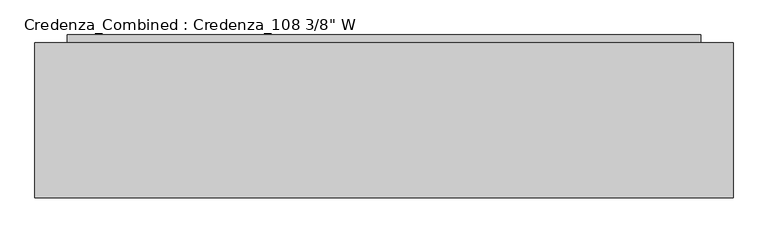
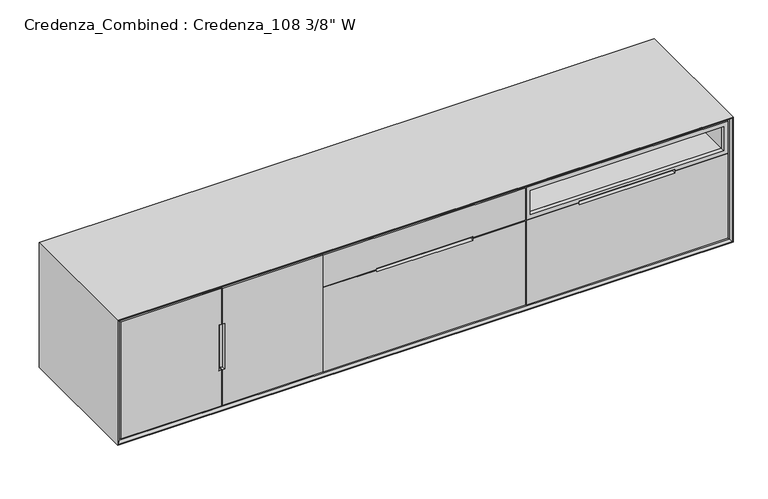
"""IFC4 building model written with IfcOpenShell, lengths in millimetres: furniture geometry."""

from ifc_helpers import new_model, si_unit, frame, origin, origin_with_axes, place, context, project, spatial, polyline, outline, extrude, faceted_brep, source, transform, mapped, element, save


def furniture_aad45bf9(model_context):
    return source(origin(), model_context, "Body", "SolidModel", [
        extrude(outline(polyline([(2717.8, 609.6), (2717.8, 28.575), (1849.4375, 28.575), (1849.4375, 609.6), (2717.8, 609.6)]), holes=[polyline([(1862.1375, 596.9), (1862.1375, 41.275), (2703.5125, 41.275), (2703.5125, 596.9), (1862.1375, 596.9)])]), frame((0.0, 0.0, 118.26875), z_axis=(0.0, 0.0, 1.0), x_axis=(1.0, 0.0, 0.0)), (0.0, 0.0, 1.0), 360.3625),
        extrude(outline(polyline([(642.14375, 2717.8), (642.14375, 1849.4375), (524.66875, 1849.4375), (524.66875, 2717.8), (642.14375, 2717.8)]), holes=[polyline([(640.55625, 2716.2125), (526.25625, 2716.2125), (526.25625, 1851.025), (640.55625, 1851.025), (640.55625, 2716.2125)])]), frame((0.0, 28.575, 0.0), z_axis=(0.0, 1.0, 0.0), x_axis=(0.0, 0.0, 1.0)), (0.0, 0.0, 1.0), 581.025),
        extrude(outline(polyline([(504.03125, 1831.975), (105.56875, 1831.975), (105.56875, 2735.2625), (504.03125, 2735.2625), (504.03125, 2499.51875), (494.7030946, 2499.51875), (494.7030946, 2067.71875), (504.03125, 2067.71875), (504.03125, 1831.975)])), frame((0.0, 9.525, 0.0), z_axis=(0.0, 1.0, 0.0), x_axis=(0.0, 0.0, 1.0)), (0.0, 0.0, 1.0), 19.05),
        extrude(outline(polyline([(659.60625, 2735.2625), (659.60625, 1831.975), (507.20625, 1831.975), (507.20625, 2067.71875), (513.3594054, 2067.71875), (513.3594054, 2499.51875), (507.20625, 2499.51875), (507.20625, 2735.2625), (659.60625, 2735.2625)]), holes=[polyline([(640.55625, 1851.025), (640.55625, 2716.2125), (526.25625, 2716.2125), (526.25625, 1851.025), (640.55625, 1851.025)])]), frame((0.0, 9.525, 0.0), z_axis=(0.0, 1.0, 0.0), x_axis=(0.0, 0.0, 1.0)), (0.0, 0.0, 1.0), 19.05),
        faceted_brep([(1811.3375, 609.6, 478.63125), (942.975, 609.6, 478.63125), (942.975, 28.575, 478.63125), (1811.3375, 28.575, 478.63125), (955.675, 596.9, 478.63125), (1797.05, 596.9, 478.63125), (1797.05, 41.275, 478.63125), (955.675, 41.275, 478.63125), (1811.3375, 609.6, 105.56875), (942.975, 609.6, 105.56875), (942.975, 28.575, 105.56875), (1811.3375, 28.575, 105.56875), (955.675, 596.9, 118.26875), (1797.05, 596.9, 118.26875), (1797.05, 41.275, 118.26875), (955.675, 41.275, 118.26875)], [[[0, 1, 2, 3], [4, 5, 6, 7]], [[1, 0, 8, 9]], [[2, 1, 9, 10]], [[3, 2, 10, 11]], [[8, 0, 3, 11]], [[5, 4, 12, 13]], [[6, 5, 13, 14]], [[7, 6, 14, 15]], [[4, 7, 15, 12]], [[13, 12, 15, 14]], [[8, 11, 10, 9]]]),
        faceted_brep([(1797.05, 596.9, 519.90625), (955.675, 596.9, 519.90625), (955.675, 41.275, 519.90625), (1797.05, 41.275, 519.90625), (1811.3375, 609.6, 507.20625), (1811.3375, 28.575, 507.20625), (942.975, 28.575, 507.20625), (942.975, 609.6, 507.20625), (942.975, 609.6, 634.20625), (1811.3375, 609.6, 634.20625), (942.975, 28.575, 634.20625), (1811.3375, 28.575, 634.20625), (955.675, 596.9, 634.20625), (1797.05, 596.9, 634.20625), (1797.05, 41.275, 634.20625), (955.675, 41.275, 634.20625)], [[[0, 1, 2, 3]], [[4, 5, 6, 7]], [[4, 7, 8, 9]], [[8, 7, 6, 10]], [[10, 6, 5, 11]], [[11, 5, 4, 9]], [[9, 8, 10, 11], [12, 13, 14, 15]], [[13, 12, 1, 0]], [[14, 13, 0, 3]], [[15, 14, 3, 2]], [[12, 15, 2, 1]]]),
        extrude(outline(polyline([(504.03125, 925.5125), (105.56875, 925.5125), (105.56875, 1828.8), (504.03125, 1828.8), (504.03125, 1593.05625), (494.7030946, 1593.05625), (494.7030946, 1161.25625), (504.03125, 1161.25625), (504.03125, 925.5125)])), frame((0.0, 9.525, 0.0), z_axis=(0.0, 1.0, 0.0), x_axis=(0.0, 0.0, 1.0)), (0.0, 0.0, 1.0), 19.05),
        extrude(outline(polyline([(659.60625, 1828.8), (659.60625, 925.5125), (507.20625, 925.5125), (507.20625, 1161.25625), (513.3594054, 1161.25625), (513.3594054, 1593.05625), (507.20625, 1593.05625), (507.20625, 1828.8), (659.60625, 1828.8)])), frame((0.0, 9.525, 0.0), z_axis=(0.0, 1.0, 0.0), x_axis=(0.0, 0.0, 1.0)), (0.0, 0.0, 1.0), 19.05),
        extrude(outline(polyline([(2625.725, 609.6), (2625.725, 241.3), (127.0, 241.3), (127.0, 609.6), (2625.725, 609.6)])), origin_with_axes(), (0.0, 0.0, 1.0), 87.3125),
        extrude(outline(polyline([(2625.725, 641.35), (2625.725, 609.6), (127.0, 609.6), (127.0, 641.35), (2625.725, 641.35)])), origin_with_axes(), (0.0, 0.0, 1.0), 647.7),
        extrude(outline(polyline([(665.1625, 2740.025), (665.1625, 12.7), (100.0125, 12.7), (100.0125, 2740.025), (665.1625, 2740.025)]), holes=[polyline([(646.1125, 31.75), (646.1125, 2720.975), (119.0625, 2720.975), (119.0625, 31.75), (646.1125, 31.75)])]), frame((0.0, 31.75, 0.0), z_axis=(0.0, 1.0, 0.0), x_axis=(0.0, 0.0, 1.0)), (0.0, 0.0, 1.0), 577.85),
        faceted_brep([(2740.025, 9.525, 665.1625), (2740.025, 609.6, 665.1625), (2740.025, 609.6, 100.0125), (2740.025, 9.525, 100.0125), (2749.55, 0.0, 674.6875), (2749.55, 0.0, 90.4875), (2752.725, 609.6, 677.8625), (2752.725, 0.0, 677.8625), (2752.725, 0.0, 87.3125), (2752.725, 609.6, 87.3125), (12.7, 609.6, 100.0125), (12.7, 9.525, 100.0125), (3.175, 0.0, 90.4875), (0.0, 0.0, 87.3125), (0.0, 609.6, 87.3125), (12.7, 609.6, 665.1625), (12.7, 9.525, 665.1625), (3.175, 0.0, 674.6875), (0.0, 0.0, 677.8625), (0.0, 609.6, 677.8625)], [[[0, 1, 2, 3]], [[4, 0, 3, 5]], [[6, 7, 8, 9]], [[3, 2, 10, 11]], [[5, 3, 11, 12]], [[9, 8, 13, 14]], [[11, 10, 15, 16]], [[12, 11, 16, 17]], [[14, 13, 18, 19]], [[9, 14, 19, 6], [1, 15, 10, 2]], [[16, 15, 1, 0]], [[17, 16, 0, 4]], [[7, 18, 13, 8], [5, 12, 17, 4]], [[19, 18, 7, 6]]]),
        faceted_brep([(469.10625, 28.575, 659.60625), (19.05, 28.575, 659.60625), (19.05, 9.525, 659.60625), (469.10625, 9.525, 659.60625), (469.10625, 28.575, 105.56875), (469.10625, 9.525, 105.56875), (19.05, 9.525, 105.56875), (19.05, 28.575, 105.56875), (457.99375, 25.4, 490.5375), (457.99375, 25.4, 274.6375), (469.10625, 25.4, 274.6375), (469.10625, 25.4, 490.5375), (469.10625, 9.525, 274.6375), (457.99375, 9.525, 274.6375), (457.99375, 9.525, 490.5375), (469.10625, 9.525, 490.5375)], [[[0, 1, 2, 3]], [[4, 5, 6, 7]], [[1, 0, 4, 7]], [[2, 1, 7, 6]], [[8, 9, 10, 11]], [[3, 2, 6, 5, 12, 13, 14, 15]], [[0, 3, 15, 11, 10, 12, 5, 4]], [[14, 8, 11, 15]], [[9, 8, 14, 13]], [[9, 13, 12, 10]]]),
        faceted_brep([(472.28125, 9.525, 659.60625), (922.3375, 9.525, 659.60625), (922.3375, 28.575, 659.60625), (472.28125, 28.575, 659.60625), (472.28125, 9.525, 105.56875), (472.28125, 28.575, 105.56875), (922.3375, 28.575, 105.56875), (922.3375, 9.525, 105.56875), (472.28125, 9.525, 490.5375), (483.39375, 9.525, 490.5375), (483.39375, 9.525, 274.6375), (472.28125, 9.525, 274.6375), (483.39375, 25.4, 274.6375), (483.39375, 25.4, 490.5375), (472.28125, 25.4, 490.5375), (472.28125, 25.4, 274.6375)], [[[0, 1, 2, 3]], [[4, 5, 6, 7]], [[1, 0, 8, 9, 10, 11, 4, 7]], [[2, 1, 7, 6]], [[12, 13, 14, 15]], [[3, 2, 6, 5]], [[0, 3, 5, 4, 11, 15, 14, 8]], [[13, 9, 8, 14]], [[10, 12, 15, 11]], [[13, 12, 10, 9]]]),
        extrude(outline(polyline([(922.3375, 609.6), (922.3375, 28.575), (19.05, 28.575), (19.05, 609.6), (922.3375, 609.6)])), frame((0.0, 0.0, 382.5875), z_axis=(0.0, 0.0, 1.0), x_axis=(1.0, 0.0, 0.0)), (0.0, 0.0, 1.0), 19.05),
    ])


if __name__ == "__main__":
    model = new_model("IFC4")
    model_context = context("Model", 3, world=origin())
    ifc_project = project(units=[si_unit("LENGTHUNIT", "METRE", prefix="MILLI")], contexts=[model_context])
    site = spatial("IfcSite", under=ifc_project)
    building = spatial("IfcBuilding", under=site)
    placement = place(None, origin())
    furniture_shape = furniture_aad45bf9(model_context)
    element("IfcFurniture", 1, ObjectType="Credenza_Combined : Credenza_108 3/8\" W", at=placement, inside=building, context=model_context, shape_type="MappedRepresentation", body=[
        mapped(furniture_shape, transform((0.0, 0.0, 0.0), x_axis=(1.0, 0.0, 0.0), y_axis=(0.0, 1.0, 0.0), z_axis=(0.0, 0.0, 1.0))),
    ])
    save(model, "model.ifc")
